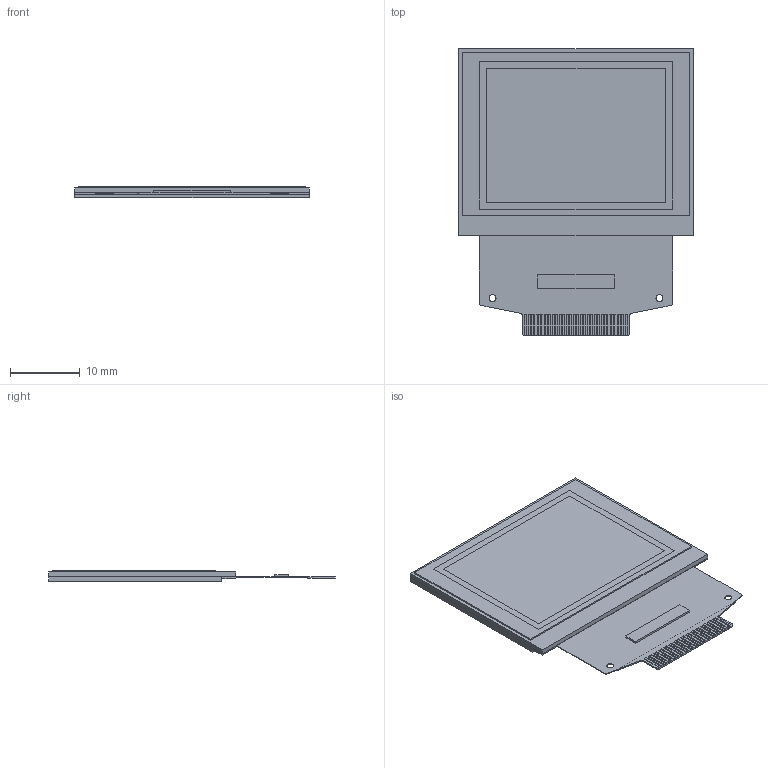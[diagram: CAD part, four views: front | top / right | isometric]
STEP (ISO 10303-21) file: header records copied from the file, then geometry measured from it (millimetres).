
FILE_DESCRIPTION (( 'STEP AP214' ), '1' );
FILE_NAME ('NHD-1.27-12896G.STEP', '2018-09-13T16:37:37', ( '' ), ( '' ), 'SwSTEP 2.0', 'SolidWorks 2018', '' );
FILE_SCHEMA (( 'AUTOMOTIVE_DESIGN' ));
Length unit declared in the file: millimetre
Products named in the file (1): NHD-1.27-12896G
Bounding box: 33.7 x 41.25 x 1.6 mm (x, y, z)
Volume: 1663.4 mm3; surface area: 6786.6 mm2
Topology: 5 solids, 5 shells, 182 faces, 508 edges, 338 vertices
Faces by surface type: plane 172, cylinder 10
Entity records: 5814 total; most frequent: CARTESIAN_POINT 1029, ORIENTED_EDGE 1016, DIRECTION 894, EDGE_CURVE 508, VECTOR 488, LINE 488, VERTEX_POINT 338, AXIS2_PLACEMENT_3D 203
